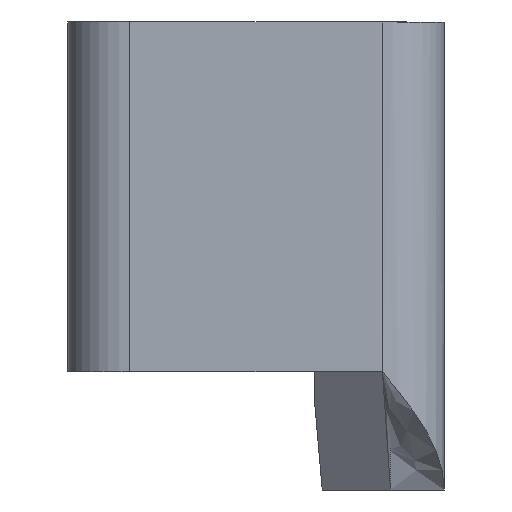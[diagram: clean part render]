
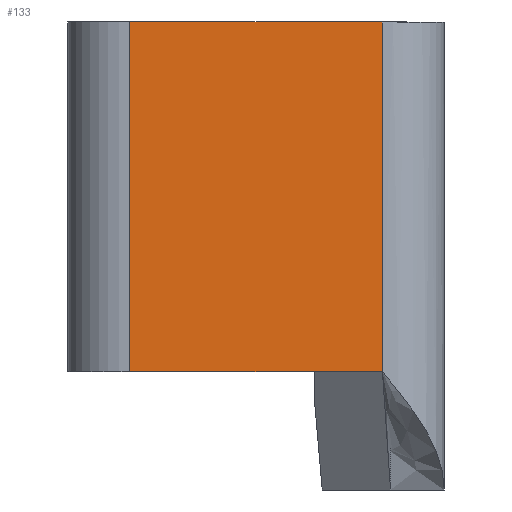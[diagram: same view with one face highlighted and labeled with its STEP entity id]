
A CAD part, front view. The second image highlights one B-rep face of the part: STEP entity #133.
In plain terms, the highlighted planar face has unit normal (0, -1, 0).
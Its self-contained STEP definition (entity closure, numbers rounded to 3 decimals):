
#10 = VERTEX_POINT ( 'NONE', #332 ) ;
#43 = DIRECTION ( 'NONE',  ( 0., 1., 0. ) ) ;
#45 = LINE ( 'NONE', #427, #69 ) ;
#69 = VECTOR ( 'NONE', #763, 1000. ) ;
#87 = EDGE_LOOP ( 'NONE', ( #171, #488, #364, #338 ) ) ;
#116 = LINE ( 'NONE', #200, #516 ) ;
#133 = ADVANCED_FACE ( 'NONE', ( #735 ), #266, .F. ) ;
#151 = EDGE_CURVE ( 'NONE', #381, #10, #343, .T. ) ;
#157 = CARTESIAN_POINT ( 'NONE',  ( 23.5, -10., -54.5 ) ) ;
#171 = ORIENTED_EDGE ( 'NONE', *, *, #708, .T. ) ;
#200 = CARTESIAN_POINT ( 'NONE',  ( -35., -10., -32.5 ) ) ;
#242 = VECTOR ( 'NONE', #966, 1000. ) ;
#266 = PLANE ( 'NONE',  #709 ) ;
#332 = CARTESIAN_POINT ( 'NONE',  ( -23.5, -10., -32.5 ) ) ;
#338 = ORIENTED_EDGE ( 'NONE', *, *, #457, .F. ) ;
#343 = LINE ( 'NONE', #836, #242 ) ;
#362 = DIRECTION ( 'NONE',  ( 0., 0., 1. ) ) ;
#364 = ORIENTED_EDGE ( 'NONE', *, *, #151, .T. ) ;
#381 = VERTEX_POINT ( 'NONE', #833 ) ;
#427 = CARTESIAN_POINT ( 'NONE',  ( -35., -10., 32.5 ) ) ;
#433 = VECTOR ( 'NONE', #705, 1000. ) ;
#457 = EDGE_CURVE ( 'NONE', #997, #10, #116, .T. ) ;
#488 = ORIENTED_EDGE ( 'NONE', *, *, #489, .F. ) ;
#489 = EDGE_CURVE ( 'NONE', #381, #769, #45, .T. ) ;
#516 = VECTOR ( 'NONE', #610, 1000. ) ;
#610 = DIRECTION ( 'NONE',  ( -1., 0., 0. ) ) ;
#705 = DIRECTION ( 'NONE',  ( 0., 0., 1. ) ) ;
#708 = EDGE_CURVE ( 'NONE', #997, #769, #863, .T. ) ;
#709 = AXIS2_PLACEMENT_3D ( 'NONE', #747, #43, #362 ) ;
#735 = FACE_OUTER_BOUND ( 'NONE', #87, .T. ) ;
#747 = CARTESIAN_POINT ( 'NONE',  ( 0., -10., 0. ) ) ;
#763 = DIRECTION ( 'NONE',  ( 1., 0., 0. ) ) ;
#769 = VERTEX_POINT ( 'NONE', #797 ) ;
#778 = CARTESIAN_POINT ( 'NONE',  ( 23.5, -10., -32.5 ) ) ;
#797 = CARTESIAN_POINT ( 'NONE',  ( 23.5, -10., 32.5 ) ) ;
#833 = CARTESIAN_POINT ( 'NONE',  ( -23.5, -10., 32.5 ) ) ;
#836 = CARTESIAN_POINT ( 'NONE',  ( -23.5, -10., 32.5 ) ) ;
#863 = LINE ( 'NONE', #157, #433 ) ;
#966 = DIRECTION ( 'NONE',  ( 0., 0., -1. ) ) ;
#997 = VERTEX_POINT ( 'NONE', #778 ) ;
